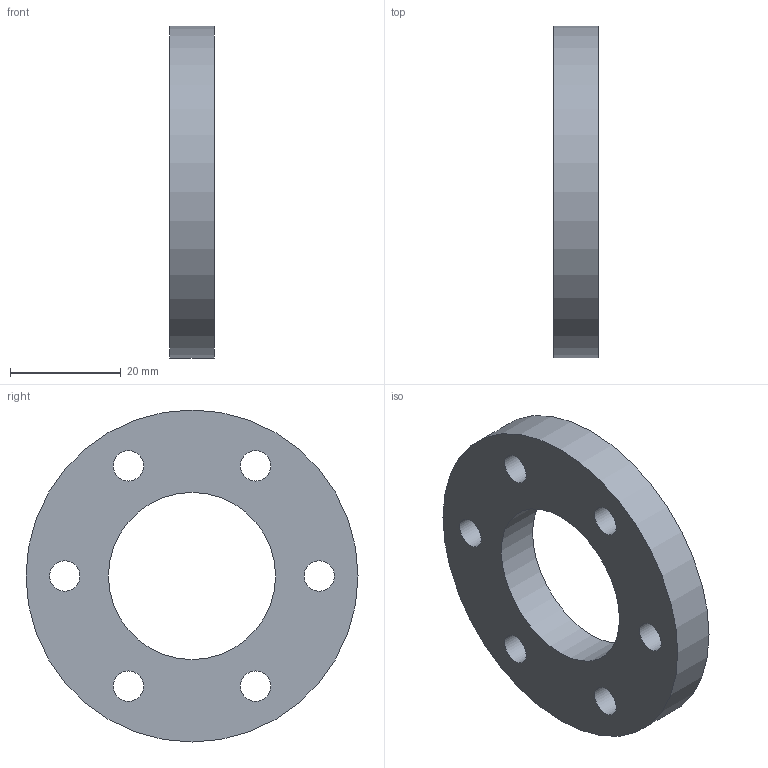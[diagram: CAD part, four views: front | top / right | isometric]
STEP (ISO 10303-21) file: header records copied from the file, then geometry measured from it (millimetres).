
FILE_DESCRIPTION(('Open CASCADE Model'),'2;1');
FILE_NAME('Open CASCADE Shape Model','2026-10-17T16:45:05',('Author'),( 'Open CASCADE'),'Open CASCADE STEP processor 8.0','build123d', 'Unknown');
FILE_SCHEMA(('AUTOMOTIVE_DESIGN { 1 0 10303 214 1 1 1 1 }'));
Length unit declared in the file: millimetre
Products named in the file (1): COMPOUND
Bounding box: 8 x 60 x 60 mm (x, y, z)
Volume: 15748.6 mm3; surface area: 7033.5 mm2
Topology: 1 solids, 1 shells, 10 faces, 24 edges, 16 vertices
Faces by surface type: cylinder 8, plane 2
Full cylindrical faces by diameter (mm): 5.5 x6, 30.2 x1, 60 x1
Entity records: 654 total; most frequent: DIRECTION 110, CARTESIAN_POINT 99, ORIENTED_EDGE 48, PCURVE 48, DEFINITIONAL_REPRESENTATION 48, LINE 40, VECTOR 40, CIRCLE 32
